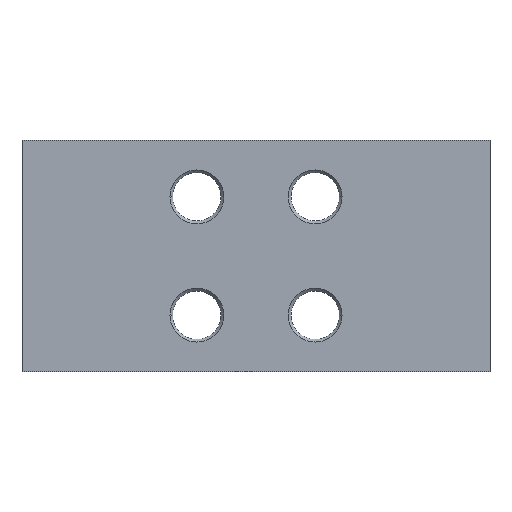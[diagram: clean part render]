
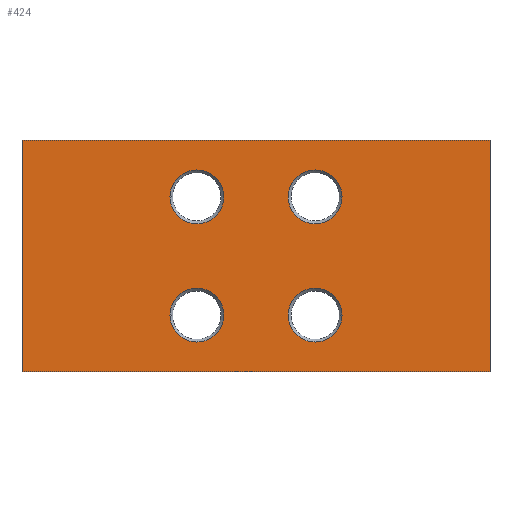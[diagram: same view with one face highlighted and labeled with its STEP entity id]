
A CAD part, front view. The second image highlights one B-rep face of the part: STEP entity #424.
In plain terms, the highlighted planar face has unit normal (0, -1, 0).
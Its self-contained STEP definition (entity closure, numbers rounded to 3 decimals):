
#1=DIRECTION('',(0.,0.,1.));
#2=VECTOR('',#1,43.);
#3=CARTESIAN_POINT('',(-43.5,0.,-21.5));
#4=LINE('',#3,#2);
#5=DIRECTION('',(1.,0.,0.));
#6=VECTOR('',#5,87.);
#7=CARTESIAN_POINT('',(-43.5,0.,21.5));
#8=LINE('',#7,#6);
#9=DIRECTION('',(0.,0.,-1.));
#10=VECTOR('',#9,43.);
#11=CARTESIAN_POINT('',(43.5,0.,21.5));
#12=LINE('',#11,#10);
#13=DIRECTION('',(-1.,0.,0.));
#14=VECTOR('',#13,87.);
#15=CARTESIAN_POINT('',(43.5,0.,-21.5));
#16=LINE('',#15,#14);
#17=CARTESIAN_POINT('',(11.,0.,11.));
#18=DIRECTION('',(0.,1.,0.));
#19=DIRECTION('',(1.,0.,0.));
#20=AXIS2_PLACEMENT_3D('',#17,#18,#19);
#22=CARTESIAN_POINT('',(11.,0.,11.));
#23=DIRECTION('',(0.,1.,0.));
#24=DIRECTION('',(-1.,0.,0.));
#25=AXIS2_PLACEMENT_3D('',#22,#23,#24);
#27=CARTESIAN_POINT('',(11.,0.,-11.));
#28=DIRECTION('',(0.,1.,0.));
#29=DIRECTION('',(1.,0.,0.));
#30=AXIS2_PLACEMENT_3D('',#27,#28,#29);
#32=CARTESIAN_POINT('',(11.,0.,-11.));
#33=DIRECTION('',(0.,1.,0.));
#34=DIRECTION('',(-1.,0.,0.));
#35=AXIS2_PLACEMENT_3D('',#32,#33,#34);
#37=CARTESIAN_POINT('',(-11.,0.,11.));
#38=DIRECTION('',(0.,1.,0.));
#39=DIRECTION('',(1.,0.,0.));
#40=AXIS2_PLACEMENT_3D('',#37,#38,#39);
#42=CARTESIAN_POINT('',(-11.,0.,11.));
#43=DIRECTION('',(0.,1.,0.));
#44=DIRECTION('',(-1.,0.,0.));
#45=AXIS2_PLACEMENT_3D('',#42,#43,#44);
#47=CARTESIAN_POINT('',(-11.,0.,-11.));
#48=DIRECTION('',(0.,1.,0.));
#49=DIRECTION('',(1.,0.,0.));
#50=AXIS2_PLACEMENT_3D('',#47,#48,#49);
#52=CARTESIAN_POINT('',(-11.,0.,-11.));
#53=DIRECTION('',(0.,1.,0.));
#54=DIRECTION('',(-1.,0.,0.));
#55=AXIS2_PLACEMENT_3D('',#52,#53,#54);
#305=CARTESIAN_POINT('',(-43.5,0.,-21.5));
#306=CARTESIAN_POINT('',(-43.5,0.,21.5));
#307=VERTEX_POINT('',#305);
#308=VERTEX_POINT('',#306);
#309=CARTESIAN_POINT('',(43.5,0.,21.5));
#310=VERTEX_POINT('',#309);
#311=CARTESIAN_POINT('',(43.5,0.,-21.5));
#312=VERTEX_POINT('',#311);
#353=CARTESIAN_POINT('',(16.,0.,11.));
#354=CARTESIAN_POINT('',(6.,0.,11.));
#355=VERTEX_POINT('',#353);
#356=VERTEX_POINT('',#354);
#361=CARTESIAN_POINT('',(16.,0.,-11.));
#362=CARTESIAN_POINT('',(6.,0.,-11.));
#363=VERTEX_POINT('',#361);
#364=VERTEX_POINT('',#362);
#369=CARTESIAN_POINT('',(-6.,0.,11.));
#370=CARTESIAN_POINT('',(-16.,0.,11.));
#371=VERTEX_POINT('',#369);
#372=VERTEX_POINT('',#370);
#377=CARTESIAN_POINT('',(-6.,0.,-11.));
#378=CARTESIAN_POINT('',(-16.,0.,-11.));
#379=VERTEX_POINT('',#377);
#380=VERTEX_POINT('',#378);
#385=CARTESIAN_POINT('',(0.,0.,0.));
#386=DIRECTION('',(0.,1.,0.));
#387=DIRECTION('',(1.,0.,0.));
#388=AXIS2_PLACEMENT_3D('',#385,#386,#387);
#389=PLANE('',#388);
#391=ORIENTED_EDGE('',*,*,#390,.T.);
#393=ORIENTED_EDGE('',*,*,#392,.T.);
#395=ORIENTED_EDGE('',*,*,#394,.T.);
#397=ORIENTED_EDGE('',*,*,#396,.T.);
#398=EDGE_LOOP('',(#391,#393,#395,#397));
#399=FACE_OUTER_BOUND('',#398,.F.);
#401=ORIENTED_EDGE('',*,*,#400,.F.);
#403=ORIENTED_EDGE('',*,*,#402,.F.);
#404=EDGE_LOOP('',(#401,#403));
#405=FACE_BOUND('',#404,.F.);
#407=ORIENTED_EDGE('',*,*,#406,.F.);
#409=ORIENTED_EDGE('',*,*,#408,.F.);
#410=EDGE_LOOP('',(#407,#409));
#411=FACE_BOUND('',#410,.F.);
#413=ORIENTED_EDGE('',*,*,#412,.F.);
#415=ORIENTED_EDGE('',*,*,#414,.F.);
#416=EDGE_LOOP('',(#413,#415));
#417=FACE_BOUND('',#416,.F.);
#419=ORIENTED_EDGE('',*,*,#418,.F.);
#421=ORIENTED_EDGE('',*,*,#420,.F.);
#422=EDGE_LOOP('',(#419,#421));
#423=FACE_BOUND('',#422,.F.);
#424=ADVANCED_FACE('',(#399,#405,#411,#417,#423),#389,.F.);
#21=CIRCLE('',#20,5.);
#26=CIRCLE('',#25,5.);
#31=CIRCLE('',#30,5.);
#36=CIRCLE('',#35,5.);
#41=CIRCLE('',#40,5.);
#46=CIRCLE('',#45,5.);
#51=CIRCLE('',#50,5.);
#56=CIRCLE('',#55,5.);
#390=EDGE_CURVE('',#307,#308,#4,.T.);
#392=EDGE_CURVE('',#308,#310,#8,.T.);
#394=EDGE_CURVE('',#310,#312,#12,.T.);
#396=EDGE_CURVE('',#312,#307,#16,.T.);
#400=EDGE_CURVE('',#355,#356,#21,.T.);
#402=EDGE_CURVE('',#356,#355,#26,.T.);
#406=EDGE_CURVE('',#363,#364,#31,.T.);
#408=EDGE_CURVE('',#364,#363,#36,.T.);
#412=EDGE_CURVE('',#371,#372,#41,.T.);
#414=EDGE_CURVE('',#372,#371,#46,.T.);
#418=EDGE_CURVE('',#379,#380,#51,.T.);
#420=EDGE_CURVE('',#380,#379,#56,.T.);
